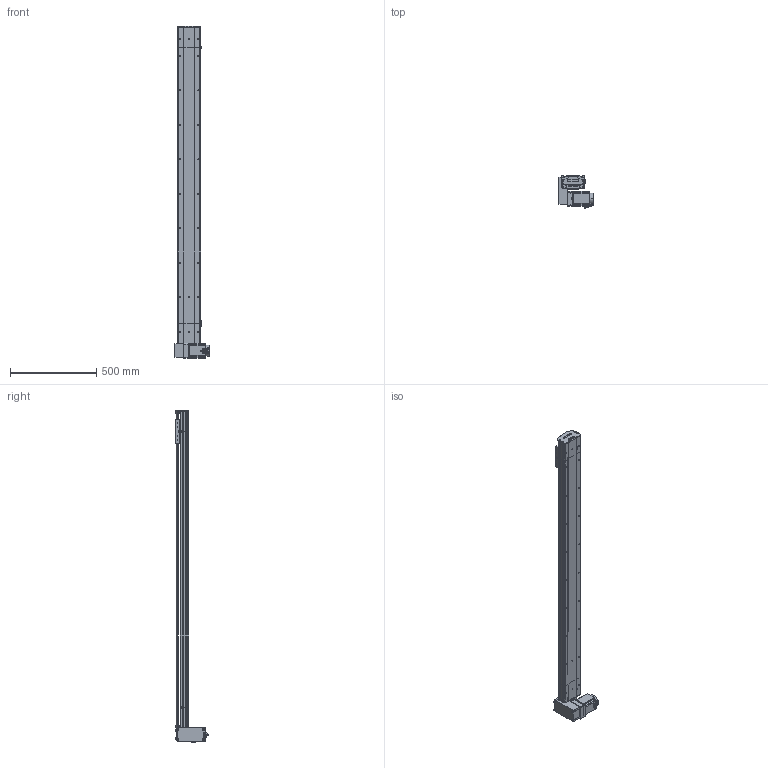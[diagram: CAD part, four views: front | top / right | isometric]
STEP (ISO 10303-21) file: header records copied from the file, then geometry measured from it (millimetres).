
FILE_DESCRIPTION (( 'STEP AP214' ), '1' );
FILE_NAME ('D14 TBH RU S1600.STEP', '2010-06-29T14:03:24', ( 'Conseil Régional Haute-Normandie' ), ( 'Conseil Régional Haute-Normandie' ), 'SwSTEP 2.0', 'SolidWorks 2010', '' );
FILE_SCHEMA (( 'AUTOMOTIVE_DESIGN' ));
Length unit declared in the file: millimetre
Products named in the file (39): couvercle D14_Default; vis M5 L8 90°_Default; poulie tail_Default; Couroie_Default; Moteur motionking 90BLDC100A-640; couvercle D14 head_Default; Conecteur2_Default; Conecteur_Default; Plaque racord D14_Default; avant 90BLDC100A-640; Cache_Default; Cache arbre_Default; renvoi RH_Default; Vis M5 L16-2_Default; vis M5 L5_Default; Rail + couroie D14 Course 1600 ; corps 90BLDC100A-640; Cvis M5 L70_Default; D14 TB H RU_Default; D14 TBH RU S1600; corpl 1600_Default; codeur 90BLDC100-640; corp head D14_Default; Tail D14B_Default; Arbre+rail head D14; chariot D14B_Default; plaque de  bout head D14 RU_Default; poulie head_Default; Chariot D14; couroie 2_Default; guide D14; vis M5 L12_Default; Arbre+rail tail D14; vis M5 L16_Default; corpl tail D14_Default; tete d''axe haut D14; plaque de  bout tail D14_Default; couvercle D14 course L1600_Default; D14 couroie L1600_Default
Assembly tree (68 placements, depth 4):
  D14 TBH RU S1600
    chariot D14B_Default
      vis M5 L12_Default  x4
      Chariot D14
      guide D14  x2
    Tail D14B_Default
      couvercle D14_Default
      vis M5 L12_Default  x4
      vis M5 L16_Default  x2
      tete d''axe haut D14
      vis M5 L8 90°_Default  x2
      Couroie_Default
      corpl tail D14_Default
      plaque de  bout tail D14_Default
      Arbre+rail tail D14
      poulie tail_Default
    D14 couroie L1600_Default
      couvercle D14 course L1600_Default
      Rail + couroie D14 Course 1600 
      corpl 1600_Default
    D14 TB H RU_Default
      corp head D14_Default
      vis M5 L12_Default  x12
      Cache_Default  x2
      Vis M5 L16-2_Default  x4
      Cvis M5 L70_Default  x4
      Moteur motionking 90BLDC100A-640
        codeur 90BLDC100-640
        corps 90BLDC100A-640
        Conecteur_Default
        avant 90BLDC100A-640
        Conecteur2_Default
      poulie head_Default
      couroie 2_Default
      plaque de  bout head D14 RU_Default
      renvoi RH_Default
      vis M5 L5_Default  x2
      Arbre+rail head D14
      couvercle D14 head_Default
      Plaque racord D14_Default
      Cache arbre_Default
Bounding box: 207.2 x 191.1 x 1925.75 mm (x, y, z)
Volume: 7911025.5 mm3; surface area: 2707190 mm2
Topology: 92 solids, 92 shells, 2661 faces, 6503 edges, 4194 vertices
Faces by surface type: plane 1597, cylinder 751, bspline 136, torus 89, cone 84, sphere 4
Entity records: 80108 total; most frequent: CARTESIAN_POINT 23697, ORIENTED_EDGE 9866, DIRECTION 9680, EDGE_CURVE 4933, LINE 3298, VECTOR 3298, VERTEX_POINT 3244, AXIS2_PLACEMENT_3D 3191
